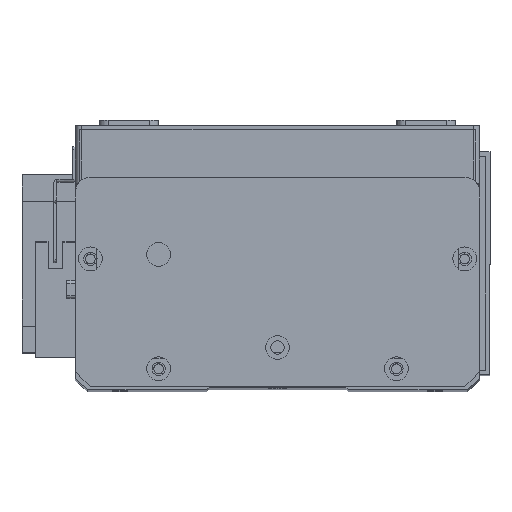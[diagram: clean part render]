
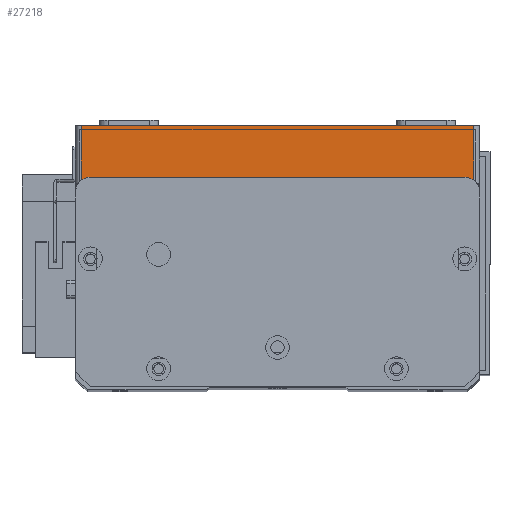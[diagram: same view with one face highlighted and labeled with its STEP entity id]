
A CAD part, top view. The second image highlights one B-rep face of the part: STEP entity #27218.
In plain terms, the highlighted planar face has unit normal (0, 0, 1) as drawn and (0, -1, 0) by its records, which use the part's own axes.
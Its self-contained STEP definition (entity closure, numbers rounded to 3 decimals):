
#118 = CARTESIAN_POINT ( 'NONE',  ( 0., 0., 0. ) ) ;
#193 = EDGE_CURVE ( 'NONE', #212, #4125, #13820, .T. ) ;
#212 = VERTEX_POINT ( 'NONE', #4503 ) ;
#374 = ORIENTED_EDGE ( 'NONE', *, *, #193, .T. ) ;
#899 = VECTOR ( 'NONE', #16644, 1000. ) ;
#2340 = LINE ( 'NONE', #27717, #899 ) ;
#2598 = VECTOR ( 'NONE', #6544, 1000. ) ;
#3781 = VECTOR ( 'NONE', #16019, 1000. ) ;
#4125 = VERTEX_POINT ( 'NONE', #23493 ) ;
#4503 = CARTESIAN_POINT ( 'NONE',  ( 134., 0., 0. ) ) ;
#4558 = CARTESIAN_POINT ( 'NONE',  ( 0., 0., 19.5 ) ) ;
#6544 = DIRECTION ( 'NONE',  ( 0., 0., 1. ) ) ;
#6778 = DIRECTION ( 'NONE',  ( 0., 0., 1. ) ) ;
#7207 = CARTESIAN_POINT ( 'NONE',  ( 134., 0., 19.5 ) ) ;
#11531 = EDGE_CURVE ( 'NONE', #12308, #4125, #26839, .T. ) ;
#12308 = VERTEX_POINT ( 'NONE', #17330 ) ;
#12509 = EDGE_LOOP ( 'NONE', ( #18230, #21370, #26247, #374 ) ) ;
#13820 = LINE ( 'NONE', #7207, #2598 ) ;
#14015 = FACE_OUTER_BOUND ( 'NONE', #12509, .T. ) ;
#15831 = CARTESIAN_POINT ( 'NONE',  ( 0., 0., 19.5 ) ) ;
#16019 = DIRECTION ( 'NONE',  ( 1., 0., 0. ) ) ;
#16644 = DIRECTION ( 'NONE',  ( 0., 0., -1. ) ) ;
#17330 = CARTESIAN_POINT ( 'NONE',  ( 2., 0., 19.5 ) ) ;
#18057 = DIRECTION ( 'NONE',  ( 1., 0., 0. ) ) ;
#18230 = ORIENTED_EDGE ( 'NONE', *, *, #11531, .F. ) ;
#19272 = VECTOR ( 'NONE', #18057, 1000. ) ;
#20203 = DIRECTION ( 'NONE',  ( 0., 1., 0. ) ) ;
#21370 = ORIENTED_EDGE ( 'NONE', *, *, #25927, .T. ) ;
#23493 = CARTESIAN_POINT ( 'NONE',  ( 134., 0., 19.5 ) ) ;
#24861 = AXIS2_PLACEMENT_3D ( 'NONE', #4558, #20203, #6778 ) ;
#25142 = LINE ( 'NONE', #118, #19272 ) ;
#25927 = EDGE_CURVE ( 'NONE', #12308, #26221, #2340, .T. ) ;
#26221 = VERTEX_POINT ( 'NONE', #26557 ) ;
#26247 = ORIENTED_EDGE ( 'NONE', *, *, #27228, .T. ) ;
#26557 = CARTESIAN_POINT ( 'NONE',  ( 2., 0., 0. ) ) ;
#26794 = PLANE ( 'NONE',  #24861 ) ;
#26839 = LINE ( 'NONE', #15831, #3781 ) ;
#27218 = ADVANCED_FACE ( 'NONE', ( #14015 ), #26794, .F. ) ;
#27228 = EDGE_CURVE ( 'NONE', #26221, #212, #25142, .T. ) ;
#27717 = CARTESIAN_POINT ( 'NONE',  ( 2., 0., 19.5 ) ) ;
